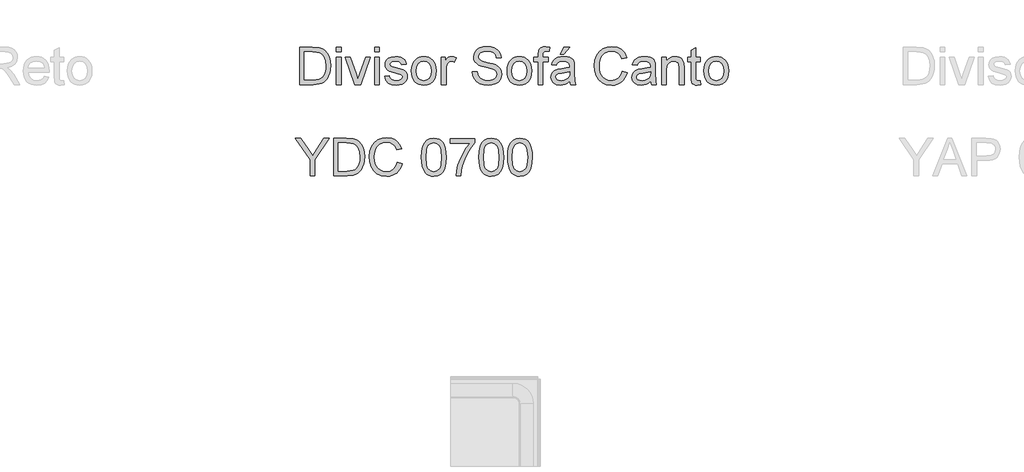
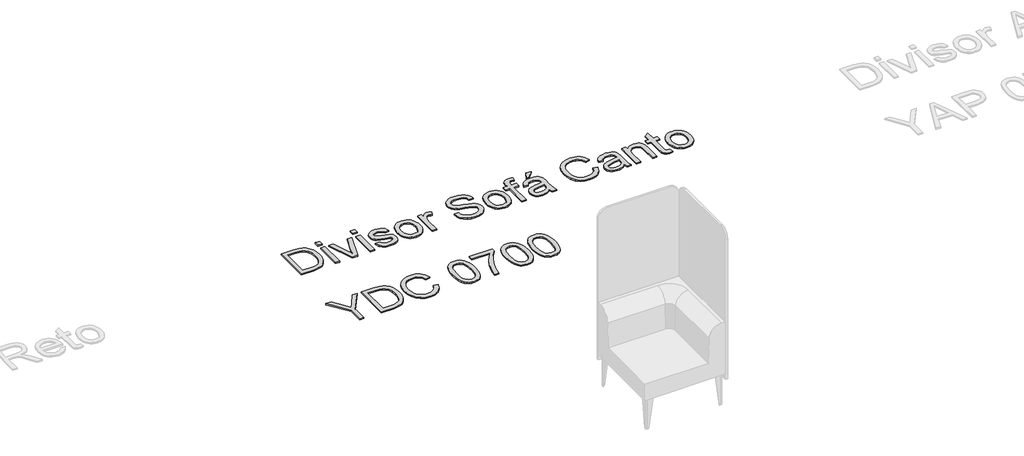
# One storey, part 6 of 26: 1 proxy.
"""IFC4 building model written with IfcOpenShell, lengths in millimetres."""

from ifc_helpers import new_model, si_unit, origin, origin_with_axes, place, context, project, spatial, polyline, outline, extrude, element, save

model = new_model("IFC4")

# Units and contexts
model_context = context("Model", 3, world=origin())
ifc_project = project(units=[si_unit("LENGTHUNIT", "METRE", prefix="MILLI")], contexts=[model_context])

# Site, building, storey
site = spatial("IfcSite", under=ifc_project)
building = spatial("IfcBuilding", under=site)
storey = spatial("IfcBuildingStorey", under=building, Name="Marelli - Linha YOUNG - Planta Baixa", Elevation=0.0)

# Proxy
placement = place(None, origin())
element("IfcBuildingElementProxy", 1, Name="300mm Arial", ObjectType="300mm Arial", at=placement, inside=storey, context=model_context, shape_type="SweptSolid", body=[
    extrude(outline(polyline([(-10812.1225773, -19914.6418665), (-10812.1225773, -19613.2729361), (-10708.1591255, -19613.2729361), (-10654.3747778, -19617.6139436), (-10630.3520835, -19625.983259), (-10610.0817856, -19639.1718285), (-10589.2412706, -19662.127665), (-10574.397232, -19690.6753079), (-10565.5128819, -19724.262934), (-10562.5514318, -19762.3387205), (-10564.5563887, -19794.684745), (-10570.5712593, -19823.1496143), (-10579.731521, -19847.3838408), (-10591.172651, -19867.0379364), (-10604.3428265, -19882.5533595), (-10618.6902243, -19894.3715686), (-10635.1621406, -19903.1363571), (-10654.7058716, -19909.4915186), (-10703.1559304, -19914.6418665), (-10812.1225773, -19914.6418665)]), holes=[polyline([(-10774.451461, -19876.9707502), (-10707.7912435, -19876.9707502), (-10680.218488, -19875.6095868), (-10659.3043965, -19871.5260967), (-10643.5222589, -19864.9594031), (-10631.3453649, -19856.1486293), (-10618.2579629, -19839.8422599), (-10608.4263166, -19818.7350304), (-10602.2734902, -19792.7349704), (-10600.2225481, -19761.7501093), (-10604.2416589, -19720.6944787), (-10616.2989913, -19690.3810023), (-10634.1136769, -19669.5588813), (-10655.4048474, -19656.9773171), (-10677.0730969, -19652.4523686), (-10708.8213131, -19650.9440524), (-10774.451461, -19650.9440524), (-10774.451461, -19876.9707502)])]), origin_with_axes(), (0.0, 0.0, 1.0), 10.0),
    extrude(outline(polyline([(-10515.4625364, -19650.9440524), (-10515.4625364, -19613.2729361), (-10477.7914201, -19613.2729361), (-10477.7914201, -19650.9440524), (-10515.4625364, -19650.9440524)])), origin_with_axes(), (0.0, 0.0, 1.0), 10.0),
    extrude(outline(polyline([(-10515.4625364, -19914.6418665), (-10515.4625364, -19693.3240582), (-10477.7914201, -19693.3240582), (-10477.7914201, -19914.6418665), (-10515.4625364, -19914.6418665)])), origin_with_axes(), (0.0, 0.0, 1.0), 10.0),
    extrude(outline(polyline([(-10366.9853632, -19914.6418665), (-10444.8291933, -19693.3240582), (-10404.9507851, -19693.3240582), (-10357.7883133, -19825.9087293), (-10343.5880683, -19870.4960271), (-10329.6821289, -19828.4103269), (-10282.2253515, -19693.3240582), (-10242.3469432, -19693.3240582), (-10319.2342802, -19914.6418665), (-10366.9853632, -19914.6418665)])), origin_with_axes(), (0.0, 0.0, 1.0), 10.0),
    extrude(outline(polyline([(-10209.3847164, -19914.6418665), (-10209.3847164, -19693.3240582), (-10171.7136001, -19693.3240582), (-10171.7136001, -19914.6418665), (-10209.3847164, -19914.6418665)])), origin_with_axes(), (0.0, 0.0, 1.0), 10.0),
    extrude(outline(polyline([(-10209.3847164, -19650.9440524), (-10209.3847164, -19613.2729361), (-10171.7136001, -19613.2729361), (-10171.7136001, -19650.9440524), (-10209.3847164, -19650.9440524)])), origin_with_axes(), (0.0, 0.0, 1.0), 10.0),
    extrude(outline(polyline([(-10129.3335943, -19848.717413), (-10091.662478, -19844.0085235), (-10085.7211838, -19860.1217548), (-10074.2248714, -19871.9675551), (-10057.0999645, -19879.2516186), (-10034.2728867, -19881.6796398), (-10011.7217204, -19879.4539537), (-9995.8660064, -19872.7768955), (-9986.4850156, -19863.101599), (-9983.3580186, -19851.8811982), (-9986.5034097, -19842.2794781), (-9995.9395828, -19834.9586264), (-10034.7143451, -19824.2164721), (-10091.4417488, -19805.7855842), (-10105.7983436, -19796.5241549), (-10116.2002071, -19784.2644874), (-10122.5185803, -19769.7883309), (-10124.6247047, -19753.8774346), (-10122.9324476, -19739.2817165), (-10117.855676, -19725.8080384), (-10109.8542426, -19713.9898293), (-10099.3879999, -19704.3605181), (-10075.438882, -19693.2136936), (-10043.0284782, -19688.6151687), (-10018.5091432, -19690.4637757), (-9997.1903816, -19696.0095968), (-9980.0470806, -19704.710006), (-9968.0541276, -19716.0223773), (-9960.1078765, -19730.7836424), (-9955.1046814, -19749.8307327), (-9992.7757977, -19754.5396222), (-9997.5306725, -19742.6846249), (-10006.9392545, -19733.7542895), (-10021.0935143, -19728.1532861), (-10040.0854223, -19726.286285), (-10061.7168836, -19728.0705127), (-10076.1378578, -19733.4231957), (-10084.2496558, -19741.1487176), (-10086.9535884, -19750.0514619), (-10082.4654281, -19761.0143453), (-10068.4123359, -19769.3284784), (-10035.9651439, -19777.3483059), (-9980.67248, -19795.0802181), (-9966.0675648, -19803.5598981), (-9954.9943168, -19815.166575), (-9948.0137559, -19829.9370371), (-9945.6869023, -19847.9080726), (-9948.4184261, -19866.4861134), (-9956.6129975, -19883.9605081), (-9969.9579169, -19898.9608965), (-9988.1404845, -19910.116918), (-10010.1030396, -19917.0422966), (-10034.7879215, -19919.3507561), (-10072.7717375, -19914.8993839), (-10100.4916459, -19901.5452675), (-10118.9961102, -19879.4355596), (-10129.3335943, -19848.717413)])), origin_with_axes(), (0.0, 0.0, 1.0), 10.0),
    extrude(outline(polyline([(-9912.7246755, -19803.9829624), (-9910.687529, -19775.3203564), (-9904.5760893, -19750.621679), (-9894.3903566, -19729.88693), (-9880.1303307, -19713.1161096), (-9865.7737359, -19702.3969479), (-9849.9272189, -19694.7404039), (-9832.5907799, -19690.1464775), (-9813.7644188, -19688.6151687), (-9792.9813854, -19690.4798706), (-9774.1895132, -19696.0739761), (-9757.3888023, -19705.3974855), (-9742.5792528, -19718.4503985), (-9730.4920299, -19734.7912569), (-9721.8582994, -19753.9786022), (-9716.678061, -19776.0124344), (-9714.9513149, -19800.8927536), (-9718.0047355, -19838.950146), (-9727.1649972, -19867.9208531), (-9742.1653855, -19889.6166938), (-9762.7391861, -19905.8494868), (-9787.1757476, -19915.9754388), (-9813.7644188, -19919.3507561), (-9834.8509549, -19917.492952), (-9853.817571, -19911.9195398), (-9870.6642672, -19902.6305194), (-9885.3910433, -19889.6258909), (-9897.3495074, -19873.1263834), (-9905.8912675, -19853.3527261), (-9911.0163235, -19830.3049191), (-9912.7246755, -19803.9829624)]), holes=[polyline([(-9875.0535592, -19803.909386), (-9870.6941576, -19838.0028499), (-9857.6159526, -19862.2922586), (-9837.9342659, -19876.8327945), (-9813.7644188, -19881.6796398), (-9789.7049363, -19876.8052033), (-9770.0600378, -19862.181894), (-9756.9818329, -19837.5705885), (-9752.6224312, -19802.7321636), (-9757.009424, -19769.6319811), (-9770.1704024, -19745.6736661), (-9789.8428921, -19731.1331303), (-9813.7644188, -19726.286285), (-9837.9342659, -19731.1147362), (-9857.6159526, -19745.6000897), (-9870.6941576, -19769.8343162), (-9875.0535592, -19803.909386)])]), origin_with_axes(), (0.0, 0.0, 1.0), 10.0),
    extrude(outline(polyline([(-9672.5713091, -19914.6418665), (-9672.5713091, -19693.3240582), (-9639.6090823, -19693.3240582), (-9639.6090823, -19726.0655558), (-9627.4321883, -19707.0828449), (-9616.2117874, -19695.8992322), (-9604.9545984, -19690.4361846), (-9592.6673397, -19688.6151687), (-9573.905358, -19691.5214365), (-9554.8490706, -19700.2402397), (-9567.4306348, -19734.0118069), (-9580.6743867, -19728.2176655), (-9593.9181385, -19726.286285), (-9605.1661305, -19728.1440891), (-9615.218506, -19733.7175013), (-9623.3395011, -19742.5834574), (-9628.7933516, -19754.318893), (-9633.3734825, -19775.3617432), (-9634.9001928, -19798.3175797), (-9634.9001928, -19914.6418665), (-9672.5713091, -19914.6418665)])), origin_with_axes(), (0.0, 0.0, 1.0), 10.0),
    extrude(outline(polyline([(-9423.0001635, -19811.0462967), (-9385.3290472, -19811.0462967), (-9381.0064338, -19831.9511911), (-9373.1889414, -19848.7542012), (-9360.9936533, -19862.0899235), (-9343.5376526, -19872.5929545), (-9322.2004969, -19879.4079684), (-9298.3617436, -19881.6796398), (-9277.3740758, -19879.9597914), (-9258.9983701, -19874.8002465), (-9244.1083463, -19866.6332662), (-9233.5777242, -19855.8911119), (-9227.3145333, -19843.557868), (-9225.2268029, -19830.6176188), (-9226.7903014, -19818.0084634), (-9231.4807969, -19807.1099593), (-9241.0089405, -19797.8117419), (-9257.0853837, -19790.0034466), (-9311.9365892, -19775.6192606), (-9347.9430395, -19766.1003139), (-9370.9816494, -19757.0412198), (-9389.7344341, -19744.3676851), (-9403.0241712, -19729.0086118), (-9410.9428312, -19711.2950937), (-9413.5823845, -19691.5582247), (-9410.3174318, -19669.494502), (-9400.5225736, -19648.9207014), (-9384.4553275, -19631.4830948), (-9362.3732107, -19618.8279542), (-9335.867313, -19611.1300235), (-9306.5287239, -19608.5640465), (-9274.7437195, -19611.2495851), (-9246.9318407, -19619.3062008), (-9224.0863688, -19632.5683467), (-9207.2005852, -19650.870476), (-9196.5136132, -19673.0721544), (-9192.2645762, -19698.0329478), (-9229.9356925, -19698.0329478), (-9236.851874, -19675.5553579), (-9251.2728482, -19659.3317619), (-9273.8056204, -19649.5093126), (-9305.0571959, -19646.2351629), (-9337.0445354, -19649.4725244), (-9358.9886964, -19659.1846091), (-9371.6806252, -19673.4768246), (-9375.9112682, -19690.4545787), (-9372.9130299, -19704.9307352), (-9363.9183151, -19716.5742003), (-9342.6547358, -19726.9852608), (-9302.4084455, -19737.6170505), (-9260.8745683, -19747.7154112), (-9235.748228, -19756.526185), (-9214.2731165, -19770.1930011), (-9199.2911223, -19787.0603906), (-9190.4895455, -19806.9444124), (-9187.5556866, -19829.6611256), (-9190.9310039, -19852.8836766), (-9201.0569559, -19874.7266701), (-9217.5196751, -19893.52544), (-9239.9052945, -19907.6153204), (-9266.8250595, -19916.4168972), (-9296.8902156, -19919.3507561), (-9333.7979768, -19916.1869709), (-9364.1758325, -19906.6956154), (-9388.3732707, -19890.8399014), (-9406.7397794, -19868.5830407), (-9418.5303973, -19841.4701377), (-9423.0001635, -19811.0462967)])), origin_with_axes(), (0.0, 0.0, 1.0), 10.0),
    extrude(outline(polyline([(-9145.1756808, -19803.9829624), (-9143.1385342, -19775.3203564), (-9137.0270946, -19750.621679), (-9126.8413619, -19729.88693), (-9112.581336, -19713.1161096), (-9098.2247412, -19702.3969479), (-9082.3782242, -19694.7404039), (-9065.0417852, -19690.1464775), (-9046.2154241, -19688.6151687), (-9025.4323906, -19690.4798706), (-9006.6405185, -19696.0739761), (-8989.8398076, -19705.3974855), (-8975.030258, -19718.4503985), (-8962.9430352, -19734.7912569), (-8954.3093046, -19753.9786022), (-8949.1290663, -19776.0124344), (-8947.4023202, -19800.8927536), (-8950.4557407, -19838.950146), (-8959.6160024, -19867.9208531), (-8974.6163908, -19889.6166938), (-8995.1901914, -19905.8494868), (-9019.6267529, -19915.9754388), (-9046.2154241, -19919.3507561), (-9067.3019602, -19917.492952), (-9086.2685763, -19911.9195398), (-9103.1152724, -19902.6305194), (-9117.8420485, -19889.6258909), (-9129.8005126, -19873.1263834), (-9138.3422727, -19853.3527261), (-9143.4673288, -19830.3049191), (-9145.1756808, -19803.9829624)]), holes=[polyline([(-9107.5045645, -19803.909386), (-9103.1451628, -19838.0028499), (-9090.0669579, -19862.2922586), (-9070.3852712, -19876.8327945), (-9046.2154241, -19881.6796398), (-9022.1559416, -19876.8052033), (-9002.5110431, -19862.181894), (-8989.4328381, -19837.5705885), (-8985.0734365, -19802.7321636), (-8989.4604293, -19769.6319811), (-9002.6214077, -19745.6736661), (-9022.2938973, -19731.1331303), (-9046.2154241, -19726.286285), (-9070.3852712, -19731.1147362), (-9090.0669579, -19745.6000897), (-9103.1451628, -19769.8343162), (-9107.5045645, -19803.909386)])]), origin_with_axes(), (0.0, 0.0, 1.0), 10.0),
    extrude(outline(polyline([(-8895.6045353, -19914.6418665), (-8895.6045353, -19730.9951745), (-8928.566762, -19730.9951745), (-8928.566762, -19693.3240582), (-8895.6045353, -19693.3240582), (-8895.6045353, -19671.0304093), (-8891.6314097, -19639.6132869), (-8884.0530406, -19627.086905), (-8872.3543932, -19617.1724852), (-8855.9836444, -19610.7161562), (-8834.3889713, -19608.5640465), (-8800.0287929, -19612.6843249), (-8805.5470228, -19648.0009964), (-8827.2520606, -19646.2351629), (-8841.5718672, -19647.7986613), (-8850.9804492, -19652.4891568), (-8856.1951765, -19661.4470834), (-8857.933419, -19675.8128753), (-8857.933419, -19693.3240582), (-8815.5534131, -19693.3240582), (-8815.5534131, -19730.9951745), (-8857.933419, -19730.9951745), (-8857.933419, -19914.6418665), (-8895.6045353, -19914.6418665)])), origin_with_axes(), (0.0, 0.0, 1.0), 10.0),
    extrude(outline(polyline([(-8716.6667328, -19669.7796105), (-8688.4133956, -19613.2729361), (-8641.3245002, -19613.2729361), (-8688.4133956, -19669.7796105), (-8716.6667328, -19669.7796105)])), origin_with_axes(), (0.0, 0.0, 1.0), 10.0),
    extrude(outline(polyline([(-8641.3245002, -19886.3885293), (-8659.3231268, -19901.821179), (-8677.8551823, -19911.9195398), (-8697.343731, -19917.492952), (-8718.2118372, -19919.3507561), (-8749.6933389, -19914.8809898), (-8772.9158899, -19901.4716911), (-8787.2356965, -19881.1094227), (-8792.0089654, -19855.7807473), (-8790.2063436, -19840.1641566), (-8784.7984783, -19825.9823057), (-8776.4567541, -19813.8421999), (-8765.8525556, -19804.3508444), (-8739.4754165, -19791.9900093), (-8706.8810717, -19786.3246266), (-8668.3638268, -19780.3649383), (-8641.5452294, -19773.3751804), (-8641.3245002, -19764.9874709), (-8643.9180683, -19748.1752637), (-8651.6987725, -19737.1755921), (-8669.0995908, -19729.0086118), (-8693.3430143, -19726.286285), (-8715.783816, -19728.0981038), (-8731.455589, -19733.5335603), (-8742.142561, -19743.5859358), (-8749.6289596, -19759.2485118), (-8787.3000759, -19754.5396222), (-8780.7609734, -19733.9382305), (-8771.0029035, -19717.7514227), (-8757.1153582, -19705.3721936), (-8738.1878295, -19696.1935378), (-8715.038855, -19690.509761), (-8688.486972, -19688.6151687), (-8663.0203409, -19690.2890318), (-8642.8328164, -19695.310621), (-8627.6116988, -19702.861399), (-8617.0442885, -19712.1228282), (-8610.0361365, -19723.5731553), (-8605.4927939, -19737.6906269), (-8603.6533839, -19770.6528536), (-8603.6533839, -19817.5210198), (-8601.7403975, -19882.9672267), (-8594.2356048, -19914.6418665), (-8631.9067211, -19914.6418665), (-8641.3245002, -19886.3885293)]), holes=[polyline([(-8641.3245002, -19811.0462967), (-8702.0986058, -19822.5977913), (-8734.5090096, -19828.7046325), (-8749.1875012, -19838.6374463), (-8754.3378491, -19853.1319969), (-8751.5327489, -19864.3340037), (-8743.1174483, -19873.5126595), (-8729.2758882, -19879.6378947), (-8710.1920097, -19881.6796398), (-8689.9585, -19879.4263625), (-8672.079435, -19872.6665309), (-8657.5848844, -19862.7061259), (-8647.5049177, -19850.8511286), (-8643.0351515, -19838.6374463), (-8641.5452294, -19821.7148746), (-8641.3245002, -19811.0462967)])]), origin_with_axes(), (0.0, 0.0, 1.0), 10.0),
    extrude(outline(polyline([(-8217.5244417, -19807.5146295), (-8179.8533254, -19817.2267142), (-8187.3075344, -19840.6538995), (-8197.2357497, -19861.1242333), (-8209.6379715, -19878.6377155), (-8224.5141997, -19893.1943462), (-8241.5287419, -19904.6377755), (-8260.345906, -19912.8116536), (-8280.9656918, -19917.7159805), (-8303.3880994, -19919.3507561), (-8347.0832834, -19914.4027432), (-8381.7837526, -19899.5587047), (-8408.3816208, -19875.3336753), (-8427.769002, -19842.2426899), (-8439.6056052, -19803.3391689), (-8443.5511396, -19761.6765329), (-8439.0905704, -19717.7330286), (-8425.7088628, -19679.7860008), (-8404.1049927, -19649.0402631), (-8374.9779357, -19626.7006289), (-8340.4338163, -19613.0981921), (-8302.578759, -19608.5640465), (-8261.274808, -19614.4317644), (-8243.3060718, -19621.7664116), (-8227.1261618, -19632.0349178), (-8213.0017925, -19644.96597), (-8201.1996782, -19660.2882551), (-8184.562215, -19698.1065242), (-8222.2333313, -19707.0828449), (-8235.2931421, -19679.6112569), (-8253.1354189, -19660.7665017), (-8275.9808908, -19649.8679976), (-8304.050287, -19646.2351629), (-8336.4055085, -19650.2634707), (-8362.9849826, -19662.3483942), (-8383.154113, -19681.2207406), (-8396.2783032, -19705.6113169), (-8403.4795933, -19733.1840724), (-8405.8800233, -19761.6029565), (-8403.0381349, -19796.4045933), (-8394.5124696, -19826.4973405), (-8379.9811308, -19850.7315669), (-8359.1222217, -19867.9576413), (-8334.1154431, -19878.2491402), (-8307.1404958, -19881.6796398), (-8275.6957822, -19877.0075384), (-8249.4933871, -19862.9912344), (-8229.7105328, -19839.7778805), (-8217.5244417, -19807.5146295)])), origin_with_axes(), (0.0, 0.0, 1.0), 10.0),
    extrude(outline(polyline([(-7991.4977439, -19886.3885293), (-8009.4963705, -19901.821179), (-8028.028426, -19911.9195398), (-8047.5169747, -19917.492952), (-8068.3850809, -19919.3507561), (-8099.8665826, -19914.8809898), (-8123.0891336, -19901.4716911), (-8137.4089402, -19881.1094227), (-8142.1822091, -19855.7807473), (-8140.3795874, -19840.1641566), (-8134.971722, -19825.9823057), (-8126.6299978, -19813.8421999), (-8116.0257993, -19804.3508444), (-8089.6486602, -19791.9900093), (-8057.0543155, -19786.3246266), (-8018.5370706, -19780.3649383), (-7991.7184731, -19773.3751804), (-7991.4977439, -19764.9874709), (-7994.091312, -19748.1752637), (-8001.8720162, -19737.1755921), (-8019.2728345, -19729.0086118), (-8043.516258, -19726.286285), (-8065.9570597, -19728.0981038), (-8081.6288327, -19733.5335603), (-8092.3158047, -19743.5859358), (-8099.8022033, -19759.2485118), (-8137.4733196, -19754.5396222), (-8130.9342171, -19733.9382305), (-8121.1761472, -19717.7514227), (-8107.2886019, -19705.3721936), (-8088.3610732, -19696.1935378), (-8065.2120987, -19690.509761), (-8038.6602157, -19688.6151687), (-8013.1935846, -19690.2890318), (-7993.0060601, -19695.310621), (-7977.7849425, -19702.861399), (-7967.2175322, -19712.1228282), (-7960.2093802, -19723.5731553), (-7955.6660376, -19737.6906269), (-7953.8266276, -19770.6528536), (-7953.8266276, -19817.5210198), (-7951.9136412, -19882.9672267), (-7944.4088485, -19914.6418665), (-7982.0799648, -19914.6418665), (-7991.4977439, -19886.3885293)]), holes=[polyline([(-7991.4977439, -19811.0462967), (-8052.2718495, -19822.5977913), (-8084.6822533, -19828.7046325), (-8099.3607449, -19838.6374463), (-8104.5110928, -19853.1319969), (-8101.7059926, -19864.3340037), (-8093.290692, -19873.5126595), (-8079.4491319, -19879.6378947), (-8060.3652534, -19881.6796398), (-8040.1317437, -19879.4263625), (-8022.2526787, -19872.6665309), (-8007.7581281, -19862.7061259), (-7997.6781614, -19850.8511286), (-7993.2083952, -19838.6374463), (-7991.7184731, -19821.7148746), (-7991.4977439, -19811.0462967)])]), origin_with_axes(), (0.0, 0.0, 1.0), 10.0),
    extrude(outline(polyline([(-7902.0288427, -19914.6418665), (-7902.0288427, -19693.3240582), (-7864.3577264, -19693.3240582), (-7864.3577264, -19724.2261458), (-7851.2703244, -19708.6463433), (-7835.5525662, -19697.517913), (-7817.2044516, -19690.8408548), (-7796.2259809, -19688.6151687), (-7777.6571372, -19690.4085934), (-7760.6517919, -19695.7888676), (-7746.469941, -19704.0846066), (-7736.3715803, -19714.6244258), (-7725.077603, -19742.32594), (-7723.0910402, -19778.7462575), (-7723.0910402, -19914.6418665), (-7760.7621565, -19914.6418665), (-7760.7621565, -19783.823029), (-7765.1031641, -19750.4929203), (-7771.1088377, -19740.5693035), (-7780.4438433, -19732.8713727), (-7792.4092052, -19727.9325569), (-7806.3059475, -19726.286285), (-7828.3696702, -19729.9834991), (-7847.1776372, -19741.0751412), (-7854.6939262, -19750.1296368), (-7860.0627041, -19762.5042674), (-7864.3577264, -19797.2139337), (-7864.3577264, -19914.6418665), (-7902.0288427, -19914.6418665)])), origin_with_axes(), (0.0, 0.0, 1.0), 10.0),
    extrude(outline(polyline([(-7591.2421332, -19883.2247441), (-7586.5332436, -19915.7455125), (-7614.7130045, -19919.3507561), (-7632.7944045, -19917.7872576), (-7646.2772796, -19913.0967622), (-7655.8054233, -19905.8678809), (-7662.022629, -19896.6892252), (-7665.4439316, -19880.9254817), (-7666.5843658, -19853.9413373), (-7666.5843658, -19730.9951745), (-7694.837703, -19730.9951745), (-7694.837703, -19693.3240582), (-7666.5843658, -19693.3240582), (-7666.5843658, -19639.5397105), (-7628.9132495, -19617.3932144), (-7628.9132495, -19693.3240582), (-7591.2421332, -19693.3240582), (-7591.2421332, -19730.9951745), (-7628.9132495, -19730.9951745), (-7628.9132495, -19852.8376913), (-7626.9266867, -19872.2618607), (-7620.4887518, -19879.141254), (-7607.6496701, -19881.6796398), (-7591.2421332, -19883.2247441)])), origin_with_axes(), (0.0, 0.0, 1.0), 10.0),
    extrude(outline(polyline([(-7562.9887959, -19803.9829624), (-7560.9516494, -19775.3203564), (-7554.8402097, -19750.621679), (-7544.654477, -19729.88693), (-7530.3944512, -19713.1161096), (-7516.0378563, -19702.3969479), (-7500.1913394, -19694.7404039), (-7482.8549003, -19690.1464775), (-7464.0285392, -19688.6151687), (-7443.2455058, -19690.4798706), (-7424.4536336, -19696.0739761), (-7407.6529227, -19705.3974855), (-7392.8433732, -19718.4503985), (-7380.7561504, -19734.7912569), (-7372.1224198, -19753.9786022), (-7366.9421814, -19776.0124344), (-7365.2154353, -19800.8927536), (-7368.2688559, -19838.950146), (-7377.4291176, -19867.9208531), (-7392.4295059, -19889.6166938), (-7413.0033065, -19905.8494868), (-7437.439868, -19915.9754388), (-7464.0285392, -19919.3507561), (-7485.1150753, -19917.492952), (-7504.0816915, -19911.9195398), (-7520.9283876, -19902.6305194), (-7535.6551637, -19889.6258909), (-7547.6136278, -19873.1263834), (-7556.1553879, -19853.3527261), (-7561.2804439, -19830.3049191), (-7562.9887959, -19803.9829624)]), holes=[polyline([(-7525.3176796, -19803.909386), (-7520.958278, -19838.0028499), (-7507.8800731, -19862.2922586), (-7488.1983863, -19876.8327945), (-7464.0285392, -19881.6796398), (-7439.9690567, -19876.8052033), (-7420.3241582, -19862.181894), (-7407.2459533, -19837.5705885), (-7402.8865516, -19802.7321636), (-7407.2735444, -19769.6319811), (-7420.4345228, -19745.6736661), (-7440.1070125, -19731.1331303), (-7464.0285392, -19726.286285), (-7488.1983863, -19731.1147362), (-7507.8800731, -19745.6000897), (-7520.958278, -19769.8343162), (-7525.3176796, -19803.909386)])]), origin_with_axes(), (0.0, 0.0, 1.0), 10.0),
    extrude(outline(polyline([(-10727.3625656, -20646.4907736), (-10727.3625656, -20518.8357213), (-10845.0848041, -20345.1218432), (-10800.6446591, -20345.1218432), (-10737.8104143, -20437.9016823), (-10705.6575279, -20485.2113069), (-10673.4310651, -20434.517168), (-10616.4093559, -20345.1218432), (-10571.9692109, -20345.1218432), (-10689.6914493, -20518.8357213), (-10689.6914493, -20646.4907736), (-10727.3625656, -20646.4907736)])), origin_with_axes(), (0.0, 0.0, 1.0), 10.0),
    extrude(outline(polyline([(-10539.0069841, -20646.4907736), (-10539.0069841, -20345.1218432), (-10435.0435323, -20345.1218432), (-10381.2591846, -20349.4628507), (-10357.2364903, -20357.8321661), (-10336.9661924, -20371.0207356), (-10316.1256773, -20393.9765721), (-10301.2816388, -20422.5242149), (-10292.3972886, -20456.1118411), (-10289.4358386, -20494.1876276), (-10291.4407955, -20526.533652), (-10297.4556661, -20554.9985214), (-10306.6159278, -20579.2327478), (-10318.0570578, -20598.8868434), (-10331.2272332, -20614.4022666), (-10345.574631, -20626.2204757), (-10362.0465474, -20634.9852642), (-10381.5902784, -20641.3404257), (-10430.0403371, -20646.4907736), (-10539.0069841, -20646.4907736)]), holes=[polyline([(-10501.3358678, -20608.8196573), (-10434.6756503, -20608.8196573), (-10407.1028947, -20607.4584939), (-10386.1888033, -20603.3750038), (-10370.4066657, -20596.8083102), (-10358.2297717, -20587.9975364), (-10345.1423697, -20571.6911669), (-10335.3107234, -20550.5839375), (-10329.157897, -20524.5838775), (-10327.1069549, -20493.5990164), (-10331.1260657, -20452.5433857), (-10343.1833981, -20422.2299093), (-10360.9980837, -20401.4077884), (-10382.2892542, -20388.8262242), (-10403.9575037, -20384.3012756), (-10435.7057199, -20382.7929595), (-10501.3358678, -20382.7929595), (-10501.3358678, -20608.8196573)])]), origin_with_axes(), (0.0, 0.0, 1.0), 10.0),
    extrude(outline(polyline([(-10025.7380244, -20539.3635366), (-9988.0669081, -20549.0756213), (-9995.5211171, -20572.5028066), (-10005.4493324, -20592.9731404), (-10017.8515542, -20610.4866226), (-10032.7277823, -20625.0432533), (-10049.7423246, -20636.4866826), (-10068.5594887, -20644.6605607), (-10089.1792745, -20649.5648875), (-10111.6016821, -20651.1996631), (-10155.2968661, -20646.2516503), (-10189.9973353, -20631.4076118), (-10216.5952035, -20607.1825824), (-10235.9825847, -20574.091597), (-10247.8191879, -20535.188076), (-10251.7647223, -20493.52544), (-10247.3041531, -20449.5819357), (-10233.9224455, -20411.6349079), (-10212.3185753, -20380.8891701), (-10183.1915184, -20358.549536), (-10148.647399, -20344.9470992), (-10110.7923417, -20340.4129536), (-10069.4883907, -20346.2806714), (-10051.5196545, -20353.6153187), (-10035.3397445, -20363.8838249), (-10021.2153752, -20376.814877), (-10009.4132609, -20392.1371621), (-9992.7757977, -20429.9554312), (-10030.446914, -20438.9317519), (-10043.5067248, -20411.4601639), (-10061.3490016, -20392.6154087), (-10084.1944735, -20381.7169046), (-10112.2638697, -20378.0840699), (-10144.6190912, -20382.1123778), (-10171.1985653, -20394.1973013), (-10191.3676957, -20413.0696477), (-10204.4918859, -20437.4602239), (-10211.693176, -20465.0329795), (-10214.093606, -20493.4518636), (-10211.2517176, -20528.2535004), (-10202.7260523, -20558.3462476), (-10188.1947135, -20582.580474), (-10167.3358044, -20599.8065484), (-10142.3290258, -20610.0980472), (-10115.3540785, -20613.5285468), (-10083.9093649, -20608.8564455), (-10057.7069698, -20594.8401415), (-10037.9241155, -20571.6267876), (-10025.7380244, -20539.3635366)])), origin_with_axes(), (0.0, 0.0, 1.0), 10.0),
    extrude(outline(polyline([(-9832.6735534, -20498.2343295), (-9829.9052414, -20449.9958029), (-9821.6003053, -20411.5245433), (-9807.8415187, -20382.2319394), (-9788.7116549, -20361.5293801), (-9764.0727583, -20349.2237274), (-9733.7868731, -20345.1218432), (-9710.5735192, -20347.5498643), (-9689.7881864, -20354.8339278), (-9672.4057622, -20366.6889251), (-9659.4011336, -20382.8297477), (-9649.5786844, -20403.1184397), (-9641.7427979, -20427.4170455), (-9636.610844, -20458.2731478), (-9634.9001928, -20498.2343295), (-9637.6409136, -20546.1969447), (-9645.8630762, -20584.5762338), (-9659.5390894, -20613.8964288), (-9678.641362, -20634.6817616), (-9703.3354409, -20647.0701877), (-9733.7868731, -20651.1996631), (-9754.5354176, -20649.4062384), (-9772.9295174, -20644.0259642), (-9788.9691723, -20635.0588406), (-9802.6543826, -20622.5048675), (-9815.7877698, -20599.8111469), (-9825.1687607, -20571.5348171), (-9830.7973552, -20537.675878), (-9832.6735534, -20498.2343295)]), holes=[polyline([(-9795.0024371, -20498.1607531), (-9790.5878531, -20557.4173455), (-9785.0696232, -20577.6853442), (-9777.3441013, -20591.7131445), (-9757.6256264, -20608.0746963), (-9733.7868731, -20613.5285468), (-9709.9481198, -20608.0563022), (-9690.2296448, -20591.6395681), (-9682.5041229, -20577.5887752), (-9676.985893, -20557.325375), (-9672.5713091, -20498.1607531), (-9676.8387402, -20440.237733), (-9682.1730291, -20420.0364129), (-9689.6410336, -20405.6752196), (-9709.3227204, -20388.5135245), (-9734.2283315, -20382.7929595), (-9757.8095674, -20387.8329428), (-9776.7554901, -20402.9528928), (-9784.7385294, -20418.5878776), (-9790.4407003, -20439.6675159), (-9795.0024371, -20498.1607531)])]), origin_with_axes(), (0.0, 0.0, 1.0), 10.0),
    extrude(outline(polyline([(-9601.937966, -20387.501849), (-9601.937966, -20349.8307327), (-9404.1646054, -20349.8307327), (-9404.1646054, -20380.2913619), (-9432.3535633, -20415.9667184), (-9460.2666097, -20461.3357654), (-9484.8871122, -20512.2598306), (-9503.1984385, -20564.6002415), (-9512.1747592, -20603.7612799), (-9517.1779543, -20646.4907736), (-9554.8490706, -20646.4907736), (-9550.7747775, -20607.660829), (-9539.8762734, -20561.5100327), (-9522.4478639, -20512.5909244), (-9498.7838545, -20465.4560438), (-9471.1559167, -20422.8461117), (-9441.8357217, -20387.501849), (-9601.937966, -20387.501849)])), origin_with_axes(), (0.0, 0.0, 1.0), 10.0),
    extrude(outline(polyline([(-9371.2023786, -20498.2343295), (-9368.4340666, -20449.9958029), (-9360.1291306, -20411.5245433), (-9346.3703439, -20382.2319394), (-9327.2404802, -20361.5293801), (-9302.6015836, -20349.2237274), (-9272.3156983, -20345.1218432), (-9249.1023444, -20347.5498643), (-9228.3170117, -20354.8339278), (-9210.9345874, -20366.6889251), (-9197.9299589, -20382.8297477), (-9188.1075096, -20403.1184397), (-9180.2716231, -20427.4170455), (-9175.1396693, -20458.2731478), (-9173.429018, -20498.2343295), (-9176.1697389, -20546.1969447), (-9184.3919015, -20584.5762338), (-9198.0679146, -20613.8964288), (-9217.1701872, -20634.6817616), (-9241.8642662, -20647.0701877), (-9272.3156983, -20651.1996631), (-9293.0642428, -20649.4062384), (-9311.4583426, -20644.0259642), (-9327.4979976, -20635.0588406), (-9341.1832078, -20622.5048675), (-9354.316595, -20599.8111469), (-9363.6975859, -20571.5348171), (-9369.3261804, -20537.675878), (-9371.2023786, -20498.2343295)]), holes=[polyline([(-9333.5312623, -20498.1607531), (-9329.1166784, -20557.4173455), (-9323.5984484, -20577.6853442), (-9315.8729265, -20591.7131445), (-9296.1544516, -20608.0746963), (-9272.3156983, -20613.5285468), (-9248.476945, -20608.0563022), (-9228.7584701, -20591.6395681), (-9221.0329482, -20577.5887752), (-9215.5147183, -20557.325375), (-9211.1001343, -20498.1607531), (-9215.3675655, -20440.237733), (-9220.7018544, -20420.0364129), (-9228.1698589, -20405.6752196), (-9247.8515456, -20388.5135245), (-9272.7571567, -20382.7929595), (-9296.3383926, -20387.8329428), (-9315.2843154, -20402.9528928), (-9323.2673547, -20418.5878776), (-9328.9695256, -20439.6675159), (-9333.5312623, -20498.1607531)])]), origin_with_axes(), (0.0, 0.0, 1.0), 10.0),
    extrude(outline(polyline([(-9140.4667912, -20498.2343295), (-9137.6984792, -20449.9958029), (-9129.3935432, -20411.5245433), (-9115.6347566, -20382.2319394), (-9096.5048928, -20361.5293801), (-9071.8659962, -20349.2237274), (-9041.5801109, -20345.1218432), (-9018.366757, -20347.5498643), (-8997.5814243, -20354.8339278), (-8980.199, -20366.6889251), (-8967.1943715, -20382.8297477), (-8957.3719222, -20403.1184397), (-8949.5360358, -20427.4170455), (-8944.4040819, -20458.2731478), (-8942.6934306, -20498.2343295), (-8945.4341515, -20546.1969447), (-8953.6563141, -20584.5762338), (-8967.3323273, -20613.8964288), (-8986.4345999, -20634.6817616), (-9011.1286788, -20647.0701877), (-9041.5801109, -20651.1996631), (-9062.3286555, -20649.4062384), (-9080.7227552, -20644.0259642), (-9096.7624102, -20635.0588406), (-9110.4476204, -20622.5048675), (-9123.5810077, -20599.8111469), (-9132.9619985, -20571.5348171), (-9138.5905931, -20537.675878), (-9140.4667912, -20498.2343295)]), holes=[polyline([(-9102.7956749, -20498.1607531), (-9098.381091, -20557.4173455), (-9092.8628611, -20577.6853442), (-9085.1373392, -20591.7131445), (-9065.4188642, -20608.0746963), (-9041.5801109, -20613.5285468), (-9017.7413577, -20608.0563022), (-8998.0228827, -20591.6395681), (-8990.2973608, -20577.5887752), (-8984.7791309, -20557.325375), (-8980.3645469, -20498.1607531), (-8984.6319781, -20440.237733), (-8989.966267, -20420.0364129), (-8997.4342715, -20405.6752196), (-9017.1159583, -20388.5135245), (-9042.0215693, -20382.7929595), (-9065.6028052, -20387.8329428), (-9084.548728, -20402.9528928), (-9092.5317673, -20418.5878776), (-9098.2339382, -20439.6675159), (-9102.7956749, -20498.1607531)])]), origin_with_axes(), (0.0, 0.0, 1.0), 10.0),
])

save(model, "model.ifc")
